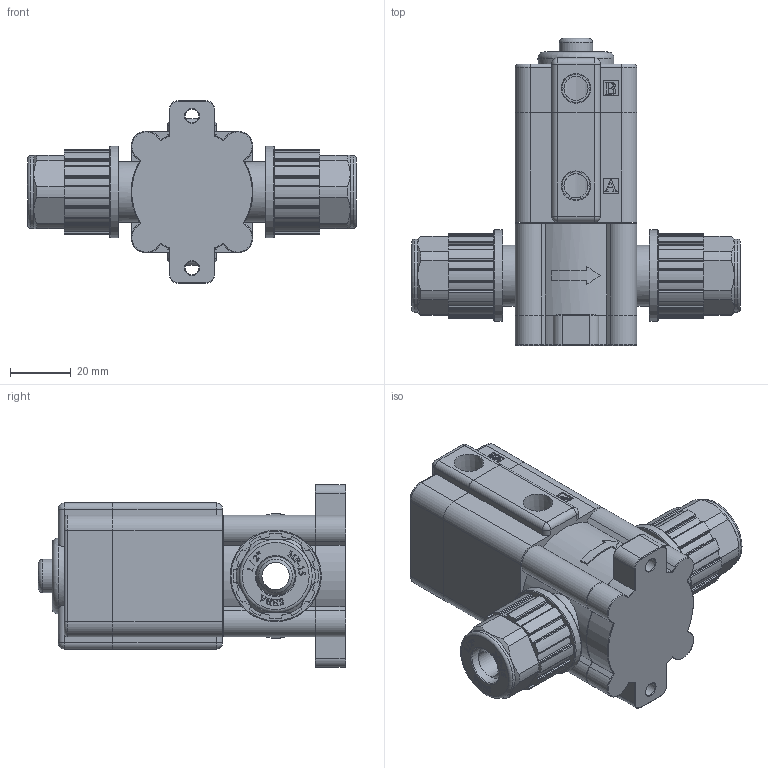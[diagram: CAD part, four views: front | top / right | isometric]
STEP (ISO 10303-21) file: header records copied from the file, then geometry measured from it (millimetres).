
FILE_DESCRIPTION(/* description */ (''),/* implementation_level */ '2;1');
FILE_NAME(/* name */ 'E:\SEBA\004 SEBA BACK UP(2020-12-23)\SEBA\001 DRAWING\SOILID WORKS\밸브\PFA_Valve\Auto-Valve\On-Off\SANC-PA-MF015-A-0\Imported Components\분리형-ASSY\SANC-PA-MF015-A-0.stp',/* time_stamp */ '2022-06-08T08:39:26+09:00',/* author */ ('KBS'),/* organization */ (''),/* preprocessor_version */ 'ST-DEVELOPER v15.2',/* originating_system */ 'Autodesk Inventor 2014',/* authorisation */ '');
FILE_SCHEMA (('AUTOMOTIVE_DESIGN { 1 0 10303 214 3 1 1 }'));
Length unit declared in the file: millimetre
Products named in the file (10): Case4-분리-상; Case4-분리-하; Body; Piston; Indicator; 다이아프램; Cover; Base; PFA_Nut; SANC-PA-MF015-A-0
Bounding box: 108.4 x 101 x 60 mm (x, y, z)
Volume: 97087.7 mm3; surface area: 57613 mm2
Topology: 10 solids, 10 shells, 1184 faces, 3164 edges, 2062 vertices
Faces by surface type: plane 529, cylinder 316, bspline 259, torus 50, cone 22, sphere 8
Full cylindrical faces by diameter (mm): 1 x1, 4.2 x1, 4.5 x18, 5 x1, 7 x4, 7.85 x1, 7.9 x2, 8 x1, 9 x3, 11 x1, 12.8 x2, 13 x2, 14 x2, 15 x2, 16.4 x2, 16.5 x2, 18 x2, 20 x2, 24 x2, 30 x2, 33.4 x4
Entity records: 29487 total; most frequent: CARTESIAN_POINT 10963, ORIENTED_EDGE 3900, DIRECTION 3462, EDGE_CURVE 1950, VERTEX_POINT 1308, AXIS2_PLACEMENT_3D 1179, LINE 1104, VECTOR 1104
